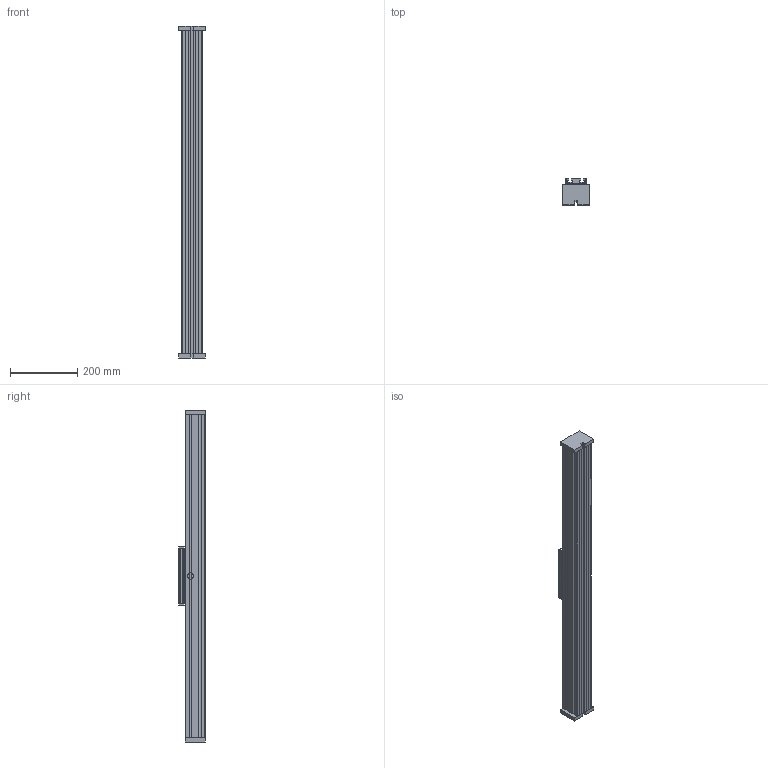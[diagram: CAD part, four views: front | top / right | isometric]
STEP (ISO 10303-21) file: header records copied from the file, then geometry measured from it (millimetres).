
FILE_DESCRIPTION (( 'STEP AP214' ), '1' );
FILE_NAME ('QSR60.STEP', '2022-06-29T12:01:53', ( '' ), ( '' ), 'SwSTEP 2.0', 'SolidWorks 2020', '' );
FILE_SCHEMA (( 'AUTOMOTIVE_DESIGN' ));
Length unit declared in the file: millimetre
Products named in the file (4): QSR60; profile^QSR60; end plate^QSR60_60; carriage^QSR60_carriage 0
Assembly tree (4 placements, depth 2):
  QSR60
    profile^QSR60
    carriage^QSR60_carriage 0
    end plate^QSR60_60  x2
Bounding box: 80 x 79 x 990 mm (x, y, z)
Volume: 2704998.4 mm3; surface area: 453074.3 mm2
Topology: 8 solids, 8 shells, 193 faces, 515 edges, 338 vertices
Faces by surface type: plane 142, cylinder 43, torus 8
Entity records: 5854 total; most frequent: CARTESIAN_POINT 991, ORIENTED_EDGE 970, DIRECTION 951, EDGE_CURVE 485, VECTOR 395, LINE 395, VERTEX_POINT 318, AXIS2_PLACEMENT_3D 278
